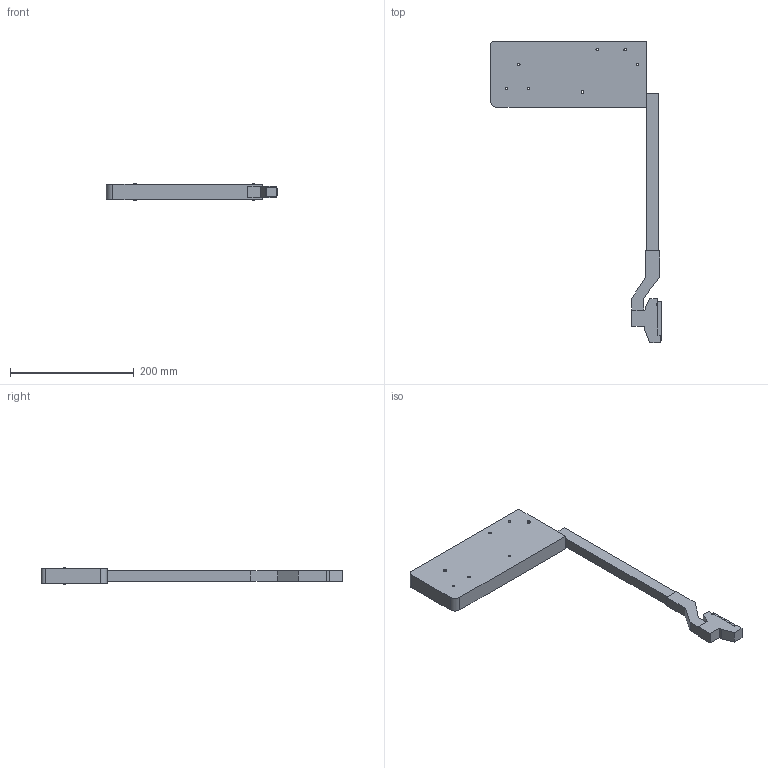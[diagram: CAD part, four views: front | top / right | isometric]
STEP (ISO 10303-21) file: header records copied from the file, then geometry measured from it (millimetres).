
FILE_DESCRIPTION (( 'STEP AP203' ), '1' );
FILE_NAME ('ST05AM+ST00YQ.STEP', '2020-04-21T05:30:57', ( 'Windows 蚚誧' ), ( '' ), 'SwSTEP 2.0', 'SolidWorks 2012', '' );
FILE_SCHEMA (( 'CONFIG_CONTROL_DESIGN' ));
Length unit declared in the file: millimetre
Products named in the file (1): ST05AM+ST00YQ
Bounding box: 277.55 x 487.73 x 28.6 mm (x, y, z)
Volume: 809463.1 mm3; surface area: 114653 mm2
Topology: 1 solids, 1 shells, 121 faces, 337 edges, 220 vertices
Faces by surface type: plane 71, cylinder 50
Entity records: 4016 total; most frequent: DIRECTION 681, CARTESIAN_POINT 679, ORIENTED_EDGE 674, EDGE_CURVE 337, LINE 237, VECTOR 237, AXIS2_PLACEMENT_3D 222, VERTEX_POINT 220
